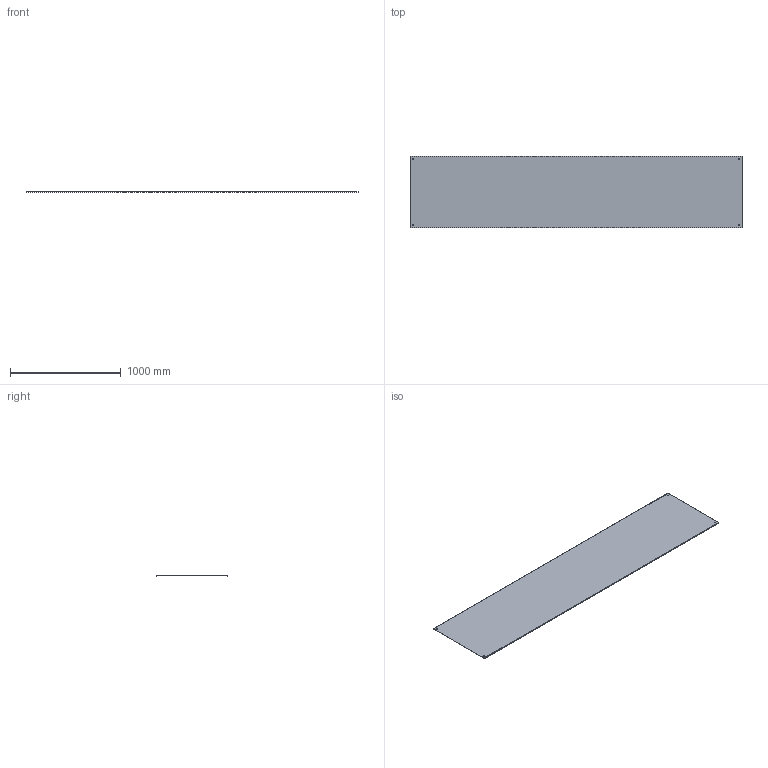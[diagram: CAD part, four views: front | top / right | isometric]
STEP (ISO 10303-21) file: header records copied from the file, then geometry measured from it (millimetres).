
FILE_DESCRIPTION(/* description */ ('','CAx-IF Rec.Pracs.---Representation and Presentation of Product Manufacturing Information (PMI)---4.0---2014-10-13'),/* implementation_level */ '2;1');
FILE_NAME(/* name */ 'Eurostrut_ECLSC-600_Straight Cover for Cable Ladder ECL.step',/* time_stamp */ '2026-09-08T14:27:23+02:00',/* author */ (''),/* organization */ (''),/* preprocessor_version */ 'ST-DEVELOPER v20.1',/* originating_system */ 'Autodesk Revit 2027 27.2.0.39',/* authorisation */ '');
FILE_SCHEMA (('AP242_MANAGED_MODEL_BASED_3D_ENGINEERING_MIM_LF { 1 0 10303 442 2 1 4 }'));
Length unit declared in the file: millimetre
Products named in the file (2): TopLevelAssembly; Extrusion
Assembly tree (1 placements, depth 2):
  TopLevelAssembly
    Extrusion
Bounding box: 3000 x 650 x 9 mm (x, y, z)
Volume: 2992028.8 mm3; surface area: 4000555.2 mm2
Topology: 1 solids, 1 shells, 18 faces, 48 edges, 32 vertices
Faces by surface type: plane 10, cylinder 8
Entity records: 618 total; most frequent: DIRECTION 106, CARTESIAN_POINT 101, ORIENTED_EDGE 96, EDGE_CURVE 48, AXIS2_PLACEMENT_3D 37, LINE 32, VECTOR 32, VERTEX_POINT 32
